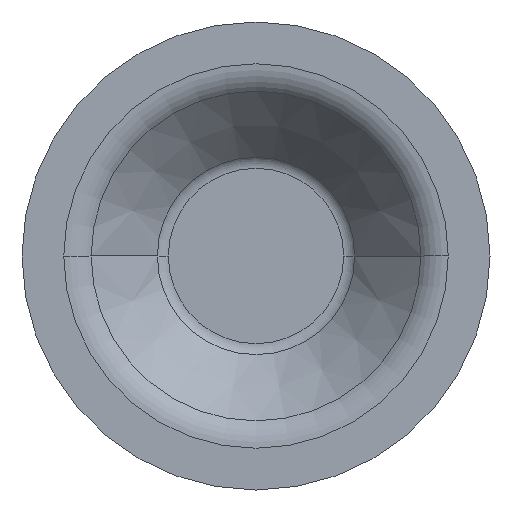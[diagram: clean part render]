
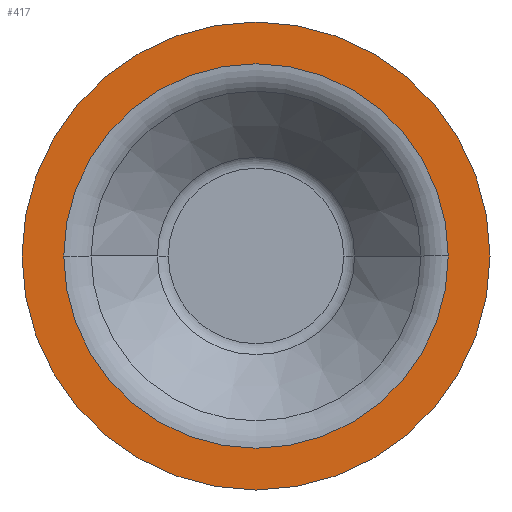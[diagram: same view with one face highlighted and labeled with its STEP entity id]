
A CAD part, front view. The second image highlights one B-rep face of the part: STEP entity #417.
In plain terms, the highlighted planar face has unit normal (0, -1, 0).
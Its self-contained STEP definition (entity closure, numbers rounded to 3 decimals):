
#62 = DIRECTION ( 'NONE',  ( 0., -1., 0. ) ) ;
#229 = CARTESIAN_POINT ( 'NONE',  ( 25.88, -15., 0. ) ) ;
#235 = EDGE_CURVE ( 'NONE', #570, #672, #829, .T. ) ;
#243 = CARTESIAN_POINT ( 'NONE',  ( -25.88, -15., 0. ) ) ;
#263 = DIRECTION ( 'NONE',  ( 0., -1., 0. ) ) ;
#286 = CARTESIAN_POINT ( 'NONE',  ( 0., -15., 0. ) ) ;
#289 = ORIENTED_EDGE ( 'NONE', *, *, #575, .F. ) ;
#325 = VERTEX_POINT ( 'NONE', #229 ) ;
#342 = CIRCLE ( 'NONE', #1232, 25.88 ) ;
#345 = AXIS2_PLACEMENT_3D ( 'NONE', #373, #852, #379 ) ;
#358 = VERTEX_POINT ( 'NONE', #243 ) ;
#360 = CARTESIAN_POINT ( 'NONE',  ( 31.5, -15., 0. ) ) ;
#373 = CARTESIAN_POINT ( 'NONE',  ( 0., -15., 0. ) ) ;
#379 = DIRECTION ( 'NONE',  ( 1., 0., 0. ) ) ;
#407 = AXIS2_PLACEMENT_3D ( 'NONE', #1434, #62, #1583 ) ;
#417 = ADVANCED_FACE ( 'NONE', ( #1087, #1621 ), #1343, .T. ) ;
#452 = EDGE_LOOP ( 'NONE', ( #289, #1024 ) ) ;
#484 = DIRECTION ( 'NONE',  ( 0., -1., 0. ) ) ;
#497 = DIRECTION ( 'NONE',  ( -1., 0., 0. ) ) ;
#570 = VERTEX_POINT ( 'NONE', #1143 ) ;
#575 = EDGE_CURVE ( 'NONE', #358, #325, #1335, .T. ) ;
#632 = EDGE_LOOP ( 'NONE', ( #1042, #1155 ) ) ;
#672 = VERTEX_POINT ( 'NONE', #1549 ) ;
#779 = DIRECTION ( 'NONE',  ( -1., 0., 0. ) ) ;
#829 = CIRCLE ( 'NONE', #407, 31.5 ) ;
#844 = EDGE_CURVE ( 'NONE', #672, #570, #1282, .T. ) ;
#852 = DIRECTION ( 'NONE',  ( 0., -1., 0. ) ) ;
#855 = EDGE_CURVE ( 'NONE', #325, #358, #342, .T. ) ;
#860 = CARTESIAN_POINT ( 'NONE',  ( 0., -15., 0. ) ) ;
#861 = AXIS2_PLACEMENT_3D ( 'NONE', #360, #484, #969 ) ;
#878 = DIRECTION ( 'NONE',  ( 0., -1., 0. ) ) ;
#969 = DIRECTION ( 'NONE',  ( 1., 0., 0. ) ) ;
#1024 = ORIENTED_EDGE ( 'NONE', *, *, #855, .F. ) ;
#1042 = ORIENTED_EDGE ( 'NONE', *, *, #235, .T. ) ;
#1087 = FACE_BOUND ( 'NONE', #452, .T. ) ;
#1143 = CARTESIAN_POINT ( 'NONE',  ( 31.5, -15., 0. ) ) ;
#1155 = ORIENTED_EDGE ( 'NONE', *, *, #844, .T. ) ;
#1232 = AXIS2_PLACEMENT_3D ( 'NONE', #860, #878, #497 ) ;
#1282 = CIRCLE ( 'NONE', #345, 31.5 ) ;
#1335 = CIRCLE ( 'NONE', #1473, 25.88 ) ;
#1343 = PLANE ( 'NONE',  #861 ) ;
#1434 = CARTESIAN_POINT ( 'NONE',  ( 0., -15., 0. ) ) ;
#1473 = AXIS2_PLACEMENT_3D ( 'NONE', #286, #263, #779 ) ;
#1549 = CARTESIAN_POINT ( 'NONE',  ( -31.5, -15., 0. ) ) ;
#1583 = DIRECTION ( 'NONE',  ( 1., 0., 0. ) ) ;
#1621 = FACE_OUTER_BOUND ( 'NONE', #632, .T. ) ;
